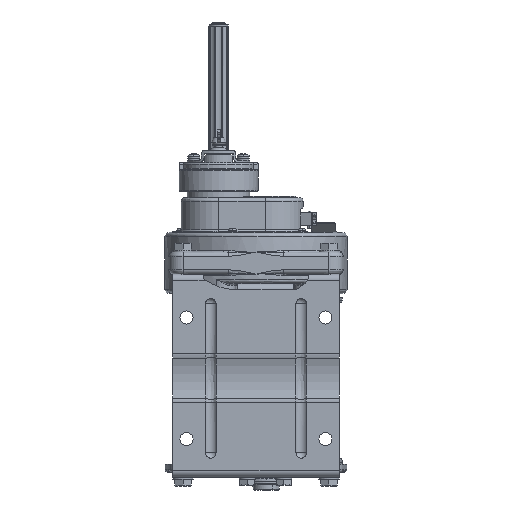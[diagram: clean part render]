
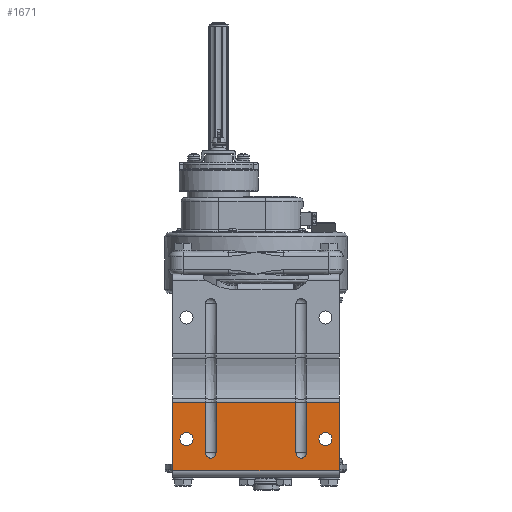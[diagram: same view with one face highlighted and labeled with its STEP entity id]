
A CAD part, front view. The second image highlights one B-rep face of the part: STEP entity #1671.
In plain terms, the highlighted planar face has unit normal (0, -1, 0).
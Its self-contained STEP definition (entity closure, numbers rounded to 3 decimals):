
#1671=ADVANCED_FACE('',(#18832,#18833,#18834),#18831,.T.);
#18831=PLANE('',#46150);
#18832=FACE_OUTER_BOUND('',#46151,.T.);
#18833=FACE_BOUND('',#46152,.T.);
#18834=FACE_BOUND('',#46153,.T.);
#46147=CARTESIAN_POINT('',(11.,-36.383,-259.95));
#46148=DIRECTION('',(0.,-1.,0.));
#46149=DIRECTION('',(0.,0.,1.));
#46150=AXIS2_PLACEMENT_3D('',#46147,#46148,#46149);
#46151=EDGE_LOOP('',(#64289,#64290,#64291,#64292,#64293,#64294,#64295,#64296,#64297,#64298,#64299,#64300));
#46152=EDGE_LOOP('',(#64301,#64302));
#46153=EDGE_LOOP('',(#64303,#64304));
#64289=ORIENTED_EDGE('',*,*,#76480,.F.);
#64290=ORIENTED_EDGE('',*,*,#76484,.F.);
#64291=ORIENTED_EDGE('',*,*,#76463,.T.);
#64292=ORIENTED_EDGE('',*,*,#73397,.T.);
#64293=ORIENTED_EDGE('',*,*,#76485,.F.);
#64294=ORIENTED_EDGE('',*,*,#76486,.T.);
#64295=ORIENTED_EDGE('',*,*,#76487,.T.);
#64296=ORIENTED_EDGE('',*,*,#73349,.T.);
#64297=ORIENTED_EDGE('',*,*,#76488,.F.);
#64298=ORIENTED_EDGE('',*,*,#76489,.F.);
#64299=ORIENTED_EDGE('',*,*,#76490,.T.);
#64300=ORIENTED_EDGE('',*,*,#73410,.T.);
#64301=ORIENTED_EDGE('',*,*,#76491,.F.);
#64302=ORIENTED_EDGE('',*,*,#76492,.F.);
#64303=ORIENTED_EDGE('',*,*,#76493,.F.);
#64304=ORIENTED_EDGE('',*,*,#76494,.F.);
#73349=EDGE_CURVE('',#89252,#89267,#89274,.T.);
#73397=EDGE_CURVE('',#89590,#89356,#89591,.T.);
#73410=EDGE_CURVE('',#89409,#89669,#89676,.T.);
#76463=EDGE_CURVE('',#110094,#89590,#110095,.T.);
#76480=EDGE_CURVE('',#110201,#89669,#110208,.T.);
#76484=EDGE_CURVE('',#110094,#110201,#110232,.T.);
#76485=EDGE_CURVE('',#110238,#89356,#110239,.T.);
#76486=EDGE_CURVE('',#110238,#110245,#110246,.T.);
#76487=EDGE_CURVE('',#110245,#89252,#110252,.T.);
#76488=EDGE_CURVE('',#110258,#89267,#110259,.T.);
#76489=EDGE_CURVE('',#110265,#110258,#110266,.T.);
#76490=EDGE_CURVE('',#110265,#89409,#110272,.T.);
#76491=EDGE_CURVE('',#110278,#110279,#110280,.T.);
#76492=EDGE_CURVE('',#110279,#110278,#110286,.T.);
#76493=EDGE_CURVE('',#110292,#110293,#110294,.T.);
#76494=EDGE_CURVE('',#110293,#110292,#110300,.T.);
#89252=VERTEX_POINT('',#136641);
#89267=VERTEX_POINT('',#136651);
#89274=LINE('',#136656,#136657);
#89356=VERTEX_POINT('',#136712);
#89409=VERTEX_POINT('',#136749);
#89590=VERTEX_POINT('',#136865);
#89591=LINE('',#136866,#136867);
#89669=VERTEX_POINT('',#136913);
#89676=LINE('',#136918,#136919);
#110094=VERTEX_POINT('',#152270);
#110095=LINE('',#152271,#152272);
#110201=VERTEX_POINT('',#152330);
#110208=LINE('',#152335,#152336);
#110232=LINE('',#152347,#152348);
#110238=VERTEX_POINT('',#152350);
#110239=LINE('',#152351,#152352);
#110245=VERTEX_POINT('',#152354);
#110246=CIRCLE('',#152358,6.);
#110252=LINE('',#152359,#152360);
#110258=VERTEX_POINT('',#152362);
#110259=LINE('',#152363,#152364);
#110265=VERTEX_POINT('',#152366);
#110266=CIRCLE('',#152370,6.);
#110272=LINE('',#152371,#152372);
#110278=VERTEX_POINT('',#152374);
#110279=VERTEX_POINT('',#152375);
#110280=CIRCLE('',#152379,7.5);
#110286=CIRCLE('',#152383,7.5);
#110292=VERTEX_POINT('',#152384);
#110293=VERTEX_POINT('',#152385);
#110294=CIRCLE('',#152389,7.5);
#110300=CIRCLE('',#152393,7.5);
#136641=CARTESIAN_POINT('',(-49.,-36.383,-173.596));
#136651=CARTESIAN_POINT('',(-141.,-36.383,-173.596));
#136656=CARTESIAN_POINT('',(-49.,-36.383,-173.596));
#136657=VECTOR('',#136658,92.);
#136658=DIRECTION('',(-1.,0.,0.));
#136712=CARTESIAN_POINT('',(-37.,-36.383,-173.596));
#136749=CARTESIAN_POINT('',(-153.,-36.383,-173.596));
#136865=CARTESIAN_POINT('',(1.,-36.383,-173.596));
#136866=CARTESIAN_POINT('',(1.,-36.383,-173.596));
#136867=VECTOR('',#136868,38.);
#136868=DIRECTION('',(-1.,0.,0.));
#136913=CARTESIAN_POINT('',(-191.,-36.383,-173.596));
#136918=CARTESIAN_POINT('',(-153.,-36.383,-173.596));
#136919=VECTOR('',#136920,38.);
#136920=DIRECTION('',(-1.,0.,0.));
#152270=CARTESIAN_POINT('',(1.,-36.383,-252.1));
#152271=CARTESIAN_POINT('',(1.,-36.383,-252.1));
#152272=VECTOR('',#152273,78.504);
#152273=DIRECTION('',(0.,0.,1.));
#152330=CARTESIAN_POINT('',(-191.,-36.383,-252.1));
#152335=CARTESIAN_POINT('',(-191.,-36.383,-252.1));
#152336=VECTOR('',#152337,78.504);
#152337=DIRECTION('',(0.,0.,1.));
#152347=CARTESIAN_POINT('',(1.,-36.383,-252.1));
#152348=VECTOR('',#152349,192.);
#152349=DIRECTION('',(-1.,0.,0.));
#152350=CARTESIAN_POINT('',(-37.,-36.383,-231.302));
#152351=CARTESIAN_POINT('',(-37.,-36.383,-231.302));
#152352=VECTOR('',#152353,57.706);
#152353=DIRECTION('',(0.,0.,1.));
#152354=CARTESIAN_POINT('',(-49.,-36.383,-231.302));
#152355=CARTESIAN_POINT('',(-43.,-36.383,-231.302));
#152356=DIRECTION('',(0.,1.,0.));
#152357=DIRECTION('',(1.,0.,0.));
#152358=AXIS2_PLACEMENT_3D('',#152355,#152356,#152357);
#152359=CARTESIAN_POINT('',(-49.,-36.383,-231.302));
#152360=VECTOR('',#152361,57.706);
#152361=DIRECTION('',(0.,0.,1.));
#152362=CARTESIAN_POINT('',(-141.,-36.383,-231.302));
#152363=CARTESIAN_POINT('',(-141.,-36.383,-231.302));
#152364=VECTOR('',#152365,57.706);
#152365=DIRECTION('',(0.,0.,1.));
#152366=CARTESIAN_POINT('',(-153.,-36.383,-231.302));
#152367=CARTESIAN_POINT('',(-147.,-36.383,-231.302));
#152368=DIRECTION('',(0.,-1.,0.));
#152369=DIRECTION('',(1.,0.,0.));
#152370=AXIS2_PLACEMENT_3D('',#152367,#152368,#152369);
#152371=CARTESIAN_POINT('',(-153.,-36.383,-231.302));
#152372=VECTOR('',#152373,57.706);
#152373=DIRECTION('',(0.,0.,1.));
#152374=CARTESIAN_POINT('',(-15.,-36.383,-222.9));
#152375=CARTESIAN_POINT('',(-15.,-36.383,-207.9));
#152376=CARTESIAN_POINT('',(-15.,-36.383,-215.4));
#152377=DIRECTION('',(0.,-1.,0.));
#152378=DIRECTION('',(0.,0.,1.));
#152379=AXIS2_PLACEMENT_3D('',#152376,#152377,#152378);
#152380=CARTESIAN_POINT('',(-15.,-36.383,-215.4));
#152381=DIRECTION('',(0.,-1.,0.));
#152382=DIRECTION('',(0.,0.,1.));
#152383=AXIS2_PLACEMENT_3D('',#152380,#152381,#152382);
#152384=CARTESIAN_POINT('',(-175.,-36.383,-222.9));
#152385=CARTESIAN_POINT('',(-175.,-36.383,-207.9));
#152386=CARTESIAN_POINT('',(-175.,-36.383,-215.4));
#152387=DIRECTION('',(0.,-1.,0.));
#152388=DIRECTION('',(0.,0.,1.));
#152389=AXIS2_PLACEMENT_3D('',#152386,#152387,#152388);
#152390=CARTESIAN_POINT('',(-175.,-36.383,-215.4));
#152391=DIRECTION('',(0.,-1.,0.));
#152392=DIRECTION('',(0.,0.,1.));
#152393=AXIS2_PLACEMENT_3D('',#152390,#152391,#152392);
